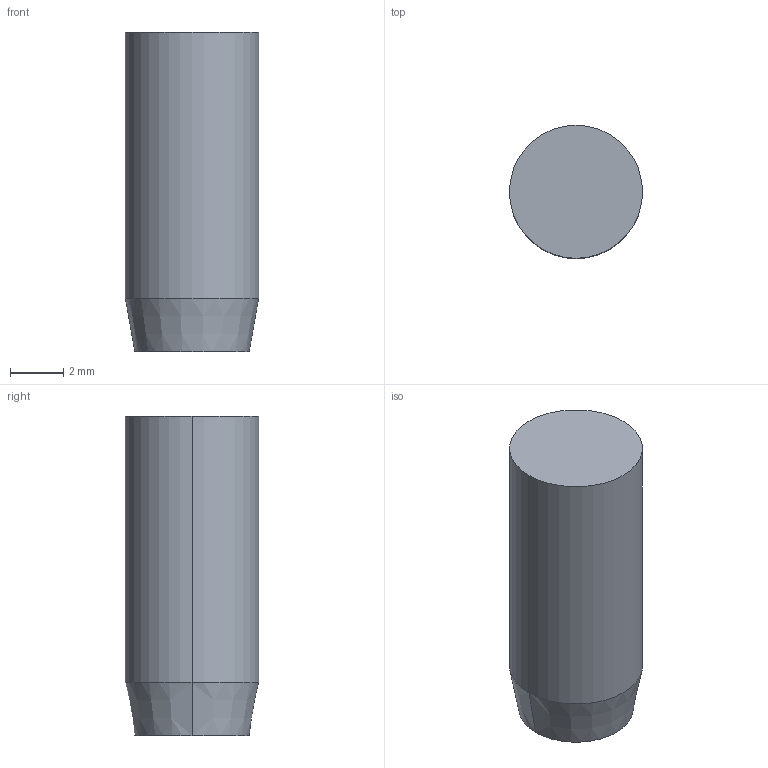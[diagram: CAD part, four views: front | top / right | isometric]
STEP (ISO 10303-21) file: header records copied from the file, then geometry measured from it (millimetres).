
FILE_DESCRIPTION (( 'STEP AP214' ), '1' );
FILE_NAME ('BruyRubio_VA-5.STEP', '2019-12-19T14:05:00', ( '' ), ( '' ), 'SwSTEP 2.0', 'SolidWorks 2017', '' );
FILE_SCHEMA (( 'AUTOMOTIVE_DESIGN' ));
Length unit declared in the file: millimetre
Products named in the file (1): BruyRubio_VA-5
Bounding box: 5 x 5 x 12 mm (x, y, z)
Volume: 227.2 mm3; surface area: 227.1 mm2
Topology: 1 solids, 1 shells, 9 faces, 16 edges, 10 vertices
Faces by surface type: cylinder 4, plane 3, cone 2
Entity records: 357 total; most frequent: DIRECTION 46, CARTESIAN_POINT 36, ORIENTED_EDGE 32, AXIS2_PLACEMENT_3D 20, EDGE_CURVE 16, UNCERTAINTY_MEASURE_WITH_UNIT 12, SURFACE_STYLE_USAGE 11, PRESENTATION_STYLE_ASSIGNMENT 11
